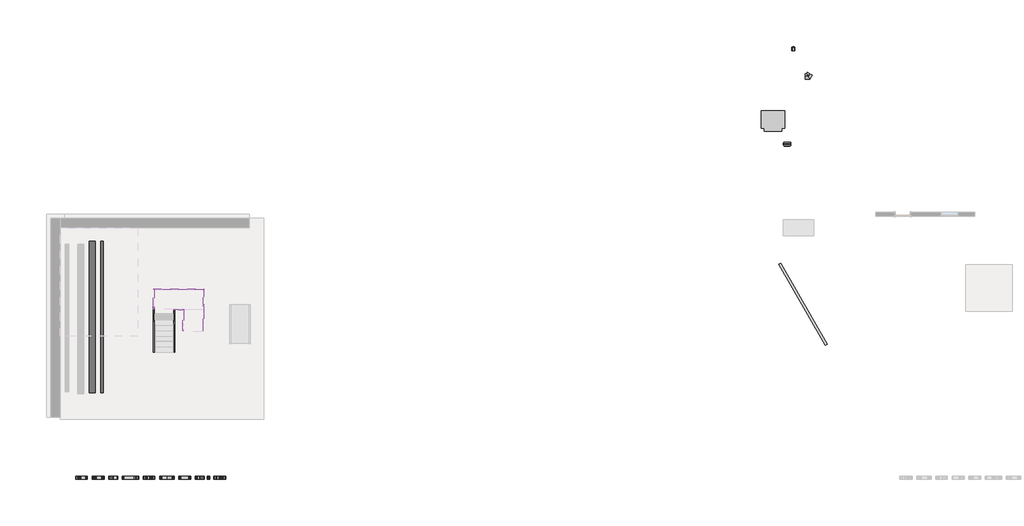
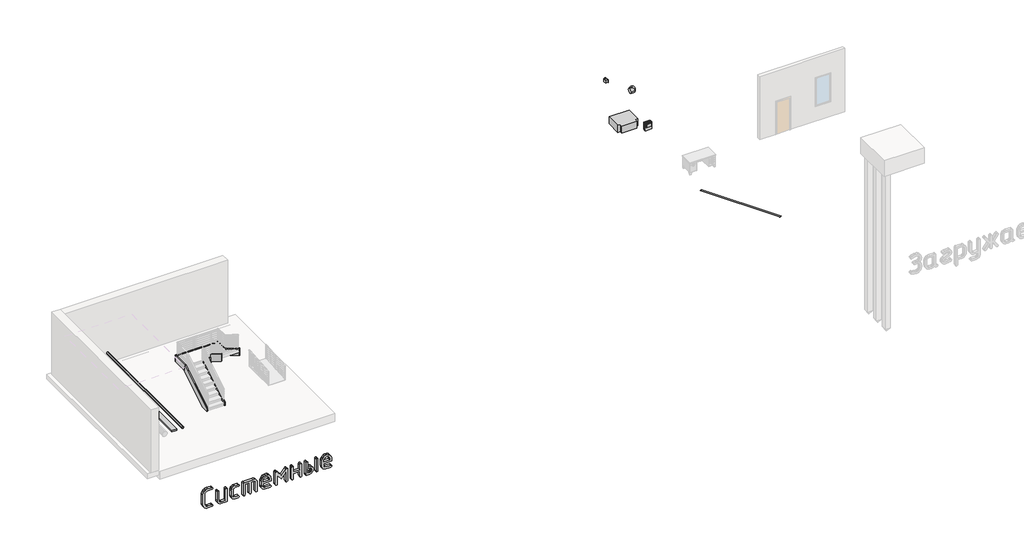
# One storey, part 5 of 6: 8 members, 3 proxies, 2 cable carrier segments, 2 duct fittings, 1 damper.
"""IFC4 building model written with IfcOpenShell, lengths in millimetres."""

import ifcopenshell
import ifcopenshell.guid

model = None  # the IFC model being written
_history = None  # IfcOwnerHistory: only IFC2X3 demands one
_inside = {}  # id of a spatial element -> (the spatial element, [elements in it])
_under = {}  # id of a project, library or spatial element -> (it, [spatial elements below it])
_declared = {}  # id of a project -> (the project, [libraries it declares])
_typed = {}  # id of a type object -> (the type object, [elements of that type])
_made_of = {}  # id of a material, layer set ... -> (it, [elements and type objects made of it])


def new_model(schema):
    """Start an empty IFC model of exactly this schema.

    Asked for "IFC4X3", IfcOpenShell would pick the latest addendum, in which some entities
    have other attributes; the version numbers below select the first issue.
    IFC2X3 requires an IfcOwnerHistory on every rooted entity: one is made here for all.
    """
    global model, _history
    if schema == "IFC4X3":
        model = ifcopenshell.file(schema_version=(4, 3, 0, 0))
    else:
        model = ifcopenshell.file(schema=schema)
    _inside.clear()
    _under.clear()
    _declared.clear()
    _typed.clear()
    _made_of.clear()
    _history = None
    if model.schema == "IFC2X3":
        org = make("IfcOrganization", Name="unknown")
        user = make(
            "IfcPersonAndOrganization",
            ThePerson=make("IfcPerson", FamilyName="unknown"),
            TheOrganization=org,
        )
        app = make(
            "IfcApplication",
            ApplicationDeveloper=org,
            Version="unknown",
            ApplicationFullName="unknown",
            ApplicationIdentifier="unknown",
        )
        _history = make(
            "IfcOwnerHistory",
            OwningUser=user,
            OwningApplication=app,
            ChangeAction="ADDED",
            CreationDate=0,
        )
    return model


def make(cls, **values):
    """One entity of the class cls with the attributes given. An attribute that is None is left unset."""
    return model.create_entity(
        cls, **{name: value for name, value in values.items() if value is not None}
    )


def rooted(cls, **values):
    """An entity with a GlobalId (a new one), such as an element, a storey or a relation."""
    return make(cls, GlobalId=ifcopenshell.guid.new(), OwnerHistory=_history, **values)


def si_unit(unit_type, name, prefix=None):
    """IfcSIUnit, for example si_unit("LENGTHUNIT", "METRE", prefix="MILLI")."""
    return make("IfcSIUnit", UnitType=unit_type, Prefix=prefix, Name=name)


def assignment(units):
    """IfcUnitAssignment: the units of a project."""
    return None if units is None else make("IfcUnitAssignment", Units=units)


def point(xyz):
    """IfcCartesianPoint."""
    return None if xyz is None else make("IfcCartesianPoint", Coordinates=xyz)


def direction(xyz):
    """IfcDirection."""
    return None if xyz is None else make("IfcDirection", DirectionRatios=xyz)


def frame(location, z_axis=None, x_axis=None):
    """IfcAxis2Placement3D, a coordinate frame: its origin and axes. An axis left out is left unset."""
    return make(
        "IfcAxis2Placement3D",
        Location=point(location),
        Axis=direction(z_axis),
        RefDirection=direction(x_axis),
    )


def frame_2d(location, x_axis=None):
    """IfcAxis2Placement2D, a coordinate frame in the plane: its origin and x axis."""
    return make(
        "IfcAxis2Placement2D", Location=point(location), RefDirection=direction(x_axis)
    )


def origin():
    """The frame at (0, 0, 0) with its axes left unset."""
    return frame((0.0, 0.0, 0.0))


def origin_with_axes():
    """The frame at (0, 0, 0) with the z axis (0, 0, 1) and the x axis (1, 0, 0) written out."""
    return frame((0.0, 0.0, 0.0), z_axis=(0.0, 0.0, 1.0), x_axis=(1.0, 0.0, 0.0))


def place(relative_to, where):
    """IfcLocalPlacement: puts the frame where relative to a parent placement (None: the world)."""
    return make(
        "IfcLocalPlacement", PlacementRelTo=relative_to, RelativePlacement=where
    )


def context(
    kind, dimensions, precision=None, world=None, true_north=None, identifier=None
):
    """IfcGeometricRepresentationContext, for example the 3D "Model" context."""
    return make(
        "IfcGeometricRepresentationContext",
        ContextIdentifier=identifier,
        ContextType=kind,
        CoordinateSpaceDimension=dimensions,
        Precision=precision,
        WorldCoordinateSystem=world,
        TrueNorth=true_north,
    )


def project(units=None, contexts=None):
    """IfcProject with its units and contexts."""
    return rooted(
        "IfcProject",
        Name="project",
        RepresentationContexts=contexts,
        UnitsInContext=assignment(units),
    )


def spatial(cls, under=None, at=None, **own):
    """A site, building, storey or space (cls), placed at a placement, below another one or the project."""
    s = rooted(cls, ObjectPlacement=at, **own)
    if under is not None:
        _under.setdefault(under.id(), (under, []))[1].append(s)
    return s


def polyline(points):
    """IfcPolyline through the points."""
    return make("IfcPolyline", Points=[point(p) for p in points])


def circle_curve(where, radius):
    """IfcCircle in the frame where."""
    return make("IfcCircle", Position=where, Radius=radius)


def ellipse_curve(where, semi_axis1, semi_axis2):
    """IfcEllipse in the frame where."""
    return make(
        "IfcEllipse", Position=where, SemiAxis1=semi_axis1, SemiAxis2=semi_axis2
    )


def trimmed(basis, trim1, trim2, sense, master):
    """IfcTrimmedCurve: the piece of a basis curve between two trims."""
    return make(
        "IfcTrimmedCurve",
        BasisCurve=basis,
        Trim1=trim1,
        Trim2=trim2,
        SenseAgreement=sense,
        MasterRepresentation=master,
    )


def segment(curve, same_sense, transition):
    """IfcCompositeCurveSegment."""
    return make(
        "IfcCompositeCurveSegment",
        Transition=transition,
        SameSense=same_sense,
        ParentCurve=curve,
    )


def composite_curve(segments, self_intersect=None):
    """IfcCompositeCurve: segments joined end to end."""
    return make("IfcCompositeCurve", Segments=segments, SelfIntersect=self_intersect)


def outline(outer, holes=None, kind="AREA"):
    """IfcArbitraryClosedProfileDef: a profile drawn as a closed curve; with holes, ...WithVoids."""
    if holes is None:
        return make("IfcArbitraryClosedProfileDef", ProfileType=kind, OuterCurve=outer)
    return make(
        "IfcArbitraryProfileDefWithVoids",
        ProfileType=kind,
        OuterCurve=outer,
        InnerCurves=holes,
    )


def extrude(swept, where, along, depth):
    """IfcExtrudedAreaSolid: the profile swept, set in the frame where, extruded along a direction by depth."""
    return make(
        "IfcExtrudedAreaSolid",
        SweptArea=swept,
        Position=where,
        ExtrudedDirection=direction(along),
        Depth=depth,
    )


def faces_of(points, faces, orient=None, outer=None):
    """IfcFace entities. A face is a list of loops; a loop is a list of indices into points, from 0.

    orient and outer hold one flag for each loop. By default every Orientation is true, the
    first loop of a face is its IfcFaceOuterBound and the others are IfcFaceBound.
    """
    made = []
    for i, loops in enumerate(faces):
        bounds = []
        for j, loop in enumerate(loops):
            is_outer = j == 0 if outer is None else outer[i][j]
            bounds.append(
                make(
                    "IfcFaceOuterBound" if is_outer else "IfcFaceBound",
                    Bound=make("IfcPolyLoop", Polygon=[points[k] for k in loop]),
                    Orientation=True if orient is None else orient[i][j],
                )
            )
        made.append(make("IfcFace", Bounds=bounds))
    return made


def faceted_brep(points, faces, orient=None, outer=None, voids=None):
    """IfcFacetedBrep: a solid bounded by flat faces; with voids (closed shells), ...WithVoids."""
    shared = [point(p) for p in points]
    hull = make("IfcClosedShell", CfsFaces=faces_of(shared, faces, orient, outer))
    if voids is None:
        return make("IfcFacetedBrep", Outer=hull)
    return make(
        "IfcFacetedBrepWithVoids",
        Outer=hull,
        Voids=[
            make(cls, CfsFaces=faces_of(shared, fs, o, b)) for cls, fs, o, b in voids
        ],
    )


def shape(context_of_items, identifier, shape_type, items):
    """IfcShapeRepresentation: the items that make up one representation, for example the "Body"."""
    return make(
        "IfcShapeRepresentation",
        ContextOfItems=context_of_items,
        RepresentationIdentifier=identifier,
        RepresentationType=shape_type,
        Items=items,
    )


def source(mapping_origin, context_of_items, identifier, shape_type, items):
    """IfcRepresentationMap: a shape defined once, which mapped items show again and again."""
    return make(
        "IfcRepresentationMap",
        MappingOrigin=mapping_origin,
        MappedRepresentation=shape(context_of_items, identifier, shape_type, items),
    )


def transform(
    local_origin,
    x_axis=None,
    y_axis=None,
    z_axis=None,
    scale=None,
    scale2=None,
    scale3=None,
    uniform=True,
):
    """IfcCartesianTransformationOperator3D, or its non-uniform kind. x_axis, y_axis, z_axis: its Axis1, 2, 3."""
    if uniform:
        return make(
            "IfcCartesianTransformationOperator3D",
            Axis1=direction(x_axis),
            Axis2=direction(y_axis),
            LocalOrigin=point(local_origin),
            Scale=scale,
            Axis3=direction(z_axis),
        )
    return make(
        "IfcCartesianTransformationOperator3DnonUniform",
        Axis1=direction(x_axis),
        Axis2=direction(y_axis),
        LocalOrigin=point(local_origin),
        Scale=scale,
        Axis3=direction(z_axis),
        Scale2=scale2,
        Scale3=scale3,
    )


def mapped(mapping_source, mapping_target):
    """IfcMappedItem: shows the shape of a source again, moved by a transform."""
    return make(
        "IfcMappedItem", MappingSource=mapping_source, MappingTarget=mapping_target
    )


def made_of(thing, what):
    """Note that an element or type object is made of a material, layer set ...; save() writes the relation."""
    if what is not None:
        _made_of.setdefault(what.id(), (what, []))[1].append(thing)
    return thing


def element(
    cls,
    number,
    at=None,
    inside=None,
    cuts=None,
    type_object=None,
    material=None,
    context=None,
    identifier="Body",
    shape_type=None,
    held_by="IfcProductDefinitionShape",
    body=None,
    shapes=None,
    **own,
):
    """One element of the class cls, such as IfcWall. Its Tag is "e" and its number.

    at: its placement. inside: the storey or other place that contains it. cuts: it is an
    opening in that element (IfcRelVoidsElement). A single representation is given by context,
    identifier, shape_type and body (its items); several are given by shapes. held_by: the class
    of the entity that holds the representations. save() writes the other relations.
    """
    e = rooted(cls, Tag="e%d" % number, ObjectPlacement=at, **own)
    if body is not None:
        shapes = [shape(context, identifier, shape_type, body)]
    if shapes is not None:
        e.Representation = make(held_by, Representations=shapes)
    if inside is not None:
        _inside.setdefault(inside.id(), (inside, []))[1].append(e)
    if cuts is not None:
        rooted(
            "IfcRelVoidsElement", RelatingBuildingElement=cuts, RelatedOpeningElement=e
        )
    if type_object is not None:
        _typed.setdefault(type_object.id(), (type_object, []))[1].append(e)
    return made_of(e, material)


def aggregate(whole, parts):
    """IfcRelAggregates: a whole, such as a stair, and the parts it consists of."""
    return rooted("IfcRelAggregates", RelatingObject=whole, RelatedObjects=parts)


def save(model, path):
    """Write the relations noted so far, then the file.

    IfcRelAggregates (storeys below a building ...), IfcRelContainedInSpatialStructure (elements
    in a storey), IfcRelDefinesByType, IfcRelAssociatesMaterial and IfcRelDeclares: one each for
    every whole, place, type object, material and project.
    """
    for whole, parts in _under.values():
        aggregate(whole, parts)
    for where, things in _inside.values():
        rooted(
            "IfcRelContainedInSpatialStructure",
            RelatedElements=things,
            RelatingStructure=where,
        )
    for kind, things in _typed.values():
        rooted("IfcRelDefinesByType", RelatedObjects=things, RelatingType=kind)
    for what, things in _made_of.values():
        rooted("IfcRelAssociatesMaterial", RelatedObjects=things, RelatingMaterial=what)
    for by, libraries in _declared.values():
        rooted("IfcRelDeclares", RelatingContext=by, RelatedDefinitions=libraries)
    model.write(path)


def plane_surface(at):
    """IfcPlane: the flat surface through the origin of the frame at, square to its z axis."""
    return make("IfcPlane", Position=at)


def cylinder_surface(at, radius):
    """IfcCylindricalSurface: all points at the distance radius from the z axis of the frame at."""
    return make("IfcCylindricalSurface", Position=at, Radius=radius)


def advanced_brep(points, edges, surfaces, faces):
    """IfcAdvancedBrep: a solid bounded by faces that lie on surfaces and meet in shared edges.

    An edge is (start, end): straight between two places in points (the first is 0);
    or (start, end, curve); or (start, end, curve, False) where it runs against its curve.
    A face is (place in surfaces, loops), or (place, loops, False) where it looks against
    its surface's normal. A loop lists edges by number (the first is 1), with a minus sign
    where the edge is run from its end to its start. The first loop is the outer one.
    """
    corners = [point(p) for p in points]
    vertices = [make("IfcVertexPoint", VertexGeometry=c) for c in corners]
    made = []
    for start, end, *more in edges:
        made.append(
            make(
                "IfcEdgeCurve",
                EdgeStart=vertices[start],
                EdgeEnd=vertices[end],
                EdgeGeometry=more[0] if more else make("IfcPolyline", Points=[corners[start], corners[end]]),
                SameSense=more[1] if len(more) > 1 else True,
            )
        )
    hull = []
    for where, loops, *sense in faces:
        bounds = []
        for j, loop in enumerate(loops):
            ring = [make("IfcOrientedEdge", EdgeElement=made[abs(k) - 1], Orientation=k > 0) for k in loop]
            bounds.append(
                make(
                    "IfcFaceOuterBound" if j == 0 else "IfcFaceBound",
                    Bound=make("IfcEdgeLoop", EdgeList=ring),
                    Orientation=True,
                )
            )
        hull.append(make("IfcAdvancedFace", Bounds=bounds, FaceSurface=surfaces[where], SameSense=sense[0] if sense else True))
    return make("IfcAdvancedBrep", Outer=make("IfcClosedShell", CfsFaces=hull))


def mechanical_equipment_a20b9884(model_context):
    return source(origin(), model_context, "Body", "SolidModel", [
        extrude(outline(polyline([(329.2, -38.1), (50.8, -38.1), (50.8, 0.0), (329.2, 0.0), (329.2, -38.1)])), frame((0.0, 0.0, 209.2), z_axis=(0.0, 0.0, 1.0), x_axis=(1.0, 0.0, 0.0)), (0.0, 0.0, 1.0), 200.0),
        faceted_brep([(0.0, 102.5, 460.0), (0.0, 77.5, 460.0), (380.0, 77.5, 460.0), (380.0, 102.5, 460.0), (380.0, 102.5, 0.0), (380.0, 77.5, 0.0), (0.0, 77.5, 0.0), (0.0, 102.5, 0.0), (373.65, 180.0, 453.65), (373.65, 180.0, 6.35), (6.35, 180.0, 6.35), (6.35, 180.0, 453.65), (6.35, 0.0, 453.65), (6.35, 0.0, 6.35), (373.65, 0.0, 6.35), (373.65, 0.0, 453.65)], [[[0, 1, 2, 3]], [[4, 5, 6, 7]], [[8, 9, 10, 11]], [[1, 0, 7, 6]], [[12, 13, 14, 15]], [[3, 2, 5, 4]], [[7, 0, 11, 10]], [[1, 6, 13, 12]], [[5, 2, 15, 14]], [[3, 4, 9, 8]], [[0, 3, 8, 11]], [[2, 1, 12, 15]], [[4, 7, 10, 9]], [[6, 5, 14, 13]]]),
    ])


def parking_5b8ad055(model_context):
    return source(origin(), model_context, "Body", "SweptSolid", [
        extrude(outline(polyline([(-43.9940905, -25.4), (43.9940905, 25.4), (2444.0391595, -4131.6), (2356.0509785, -4182.4), (-43.9940905, -25.4)])), origin_with_axes(), (0.0, 0.0, 1.0), 3.175),
    ])


def damper_459daeea(model_context):
    return source(origin(), model_context, "Body", "AdvancedBrep", [
        advanced_brep(
        [(67.5, -75.0, 75.0), (-67.5, -75.0, 75.0), (-67.5, -75.0, -75.0), (67.5, -75.0, -75.0), (-67.5, 75.0, -75.0), (67.5, 75.0, -75.0), (-67.5, 75.0, 75.0), (67.5, 75.0, 75.0), (-41.25, 75.0, 37.5), (-26.25, 75.0, 37.5), (-41.25, 120.0, 37.5), (-39.3247061, 120.0, 42.5172355), (-28.1752939, 120.0, 32.4827645), (-26.25, 114.9827645, 37.5), (5.5747061, 120.0, 69.9827645), (-5.5747061, 120.0, 80.0172355), (11.1494122, 120.0, 64.965529), (-11.1494122, 120.0, 85.034471), (28.0244122, 120.0, 83.715529), (5.7255878, 120.0, 103.784471), (22.4497061, 120.0, 88.7327645), (11.3002939, 120.0, 98.7672355), (39.3247061, 120.0, 107.4827645), (28.1752939, 120.0, 117.5172355), (-67.5, -90.0, 90.0), (-67.5, -90.0, -90.0), (-67.5, 90.0, -90.0), (-67.5, 90.0, 90.0), (-75.0, -90.0, 90.0), (-75.0, 90.0, 90.0), (-75.0, 90.0, -90.0), (-75.0, -90.0, -90.0), (75.0, -90.0, 90.0), (75.0, -90.0, -90.0), (75.0, 90.0, -90.0), (75.0, 90.0, 90.0), (67.5, -90.0, 90.0), (67.5, 90.0, 90.0), (67.5, 90.0, -90.0), (67.5, -90.0, -90.0)],
        [
            (0, 1),
            (1, 2),
            (2, 3),
            (3, 0),
            (2, 4),
            (4, 5),
            (5, 3),
            (4, 6),
            (6, 7),
            (7, 5),
            (8, 9, circle_curve(frame((-33.75, 75.0, 37.5), z_axis=(0.0, -1.0, 0.0), x_axis=(1.0, 0.0, 0.0)), 7.5)),
            (9, 8, circle_curve(frame((-33.75, 75.0, 37.5), z_axis=(0.0, -1.0, 0.0), x_axis=(1.0, 0.0, 0.0)), 7.5)),
            (0, 7),
            (6, 1),
            (10, 11, circle_curve(frame((-33.75, 120.0, 37.5), z_axis=(0.0, 1.0, 0.0), x_axis=(1.0, 0.0, 0.0)), 7.5)),
            (11, 12),
            (12, 10, circle_curve(frame((-33.75, 120.0, 37.5), z_axis=(0.0, 1.0, 0.0), x_axis=(1.0, 0.0, 0.0)), 7.5)),
            (8, 10),
            (12, 13, ellipse_curve(frame((-33.75, 120.0, 37.5), z_axis=(-0.47302949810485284, -0.7071067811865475, -0.5255883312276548), x_axis=(0.4730294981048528, -0.7071067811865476, 0.5255883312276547)), 10.6066017, 7.5)),
            (13, 9),
            (13, 11, ellipse_curve(frame((-33.75, 120.0, 37.5), z_axis=(-0.47302949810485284, -0.7071067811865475, -0.5255883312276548), x_axis=(0.4730294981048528, -0.7071067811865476, 0.5255883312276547)), 10.6066017, 7.5)),
            (11, 12, circle_curve(frame((-33.75, 120.0, 37.5), z_axis=(-0.6689647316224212, 0.0, -0.743294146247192), x_axis=(-0.743294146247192, 0.0, 0.6689647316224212)), 7.5)),
            (12, 14),
            (14, 15, circle_curve(frame((0.0, 120.0, 75.0), z_axis=(-0.6689647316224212, 0.0, -0.743294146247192), x_axis=(-0.743294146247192, 0.0, 0.6689647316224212)), 7.5)),
            (15, 11),
            (15, 14, circle_curve(frame((0.0, 120.0, 75.0), z_axis=(-0.6689647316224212, 0.0, -0.743294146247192), x_axis=(-0.743294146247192, 0.0, 0.6689647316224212)), 7.5)),
            (16, 17, circle_curve(frame((0.0, 120.0, 75.0), z_axis=(-0.6689647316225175, 0.0, -0.7432941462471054), x_axis=(-0.7432941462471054, 0.0, 0.6689647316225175)), 15.0)),
            (17, 16, circle_curve(frame((0.0, 120.0, 75.0), z_axis=(-0.6689647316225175, 0.0, -0.7432941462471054), x_axis=(-0.7432941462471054, 0.0, 0.6689647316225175)), 15.0)),
            (18, 19, circle_curve(frame((16.875, 120.0, 93.75), z_axis=(0.6689647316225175, 0.0, 0.7432941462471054), x_axis=(-0.7432941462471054, 0.0, 0.6689647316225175)), 15.0)),
            (19, 18, circle_curve(frame((16.875, 120.0, 93.75), z_axis=(0.6689647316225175, 0.0, 0.7432941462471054), x_axis=(-0.7432941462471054, 0.0, 0.6689647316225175)), 15.0)),
            (20, 21, circle_curve(frame((16.875, 120.0, 93.75), z_axis=(-0.6689647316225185, 0.0, -0.7432941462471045), x_axis=(-0.7432941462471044, 0.0, 0.6689647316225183)), 7.5)),
            (21, 20, circle_curve(frame((16.875, 120.0, 93.75), z_axis=(-0.6689647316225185, 0.0, -0.7432941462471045), x_axis=(-0.7432941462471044, 0.0, 0.6689647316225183)), 7.5)),
            (16, 18),
            (19, 17),
            (22, 23, circle_curve(frame((33.75, 120.0, 112.5), z_axis=(0.6689647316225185, 0.0, 0.7432941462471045), x_axis=(-0.7432941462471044, 0.0, 0.6689647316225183)), 7.5)),
            (23, 22, circle_curve(frame((33.75, 120.0, 112.5), z_axis=(0.6689647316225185, 0.0, 0.7432941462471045), x_axis=(-0.7432941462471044, 0.0, 0.6689647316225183)), 7.5)),
            (23, 21),
            (20, 22),
            (24, 25),
            (25, 26),
            (26, 27),
            (27, 24),
            (28, 29),
            (29, 30),
            (30, 31),
            (31, 28),
            (24, 28),
            (31, 25),
            (30, 26),
            (29, 27),
            (32, 33),
            (33, 34),
            (34, 35),
            (35, 32),
            (36, 37),
            (37, 38),
            (38, 39),
            (39, 36),
            (32, 36),
            (39, 33),
            (38, 34),
            (37, 35),
        ],
        [
            plane_surface(frame((67.5, -75.0, 75.0), z_axis=(0.0, -1.0, 0.0), x_axis=(-1.0, 0.0, 0.0))),
            plane_surface(frame((67.5, -75.0, -75.0), z_axis=(0.0, 0.0, -1.0), x_axis=(-1.0, 0.0, 0.0))),
            plane_surface(frame((67.5, 75.0, -75.0), z_axis=(0.0, 1.0, 0.0), x_axis=(-1.0, 0.0, 0.0))),
            plane_surface(frame((67.5, 75.0, 75.0), z_axis=(0.0, 0.0, 1.0), x_axis=(-1.0, 0.0, 0.0))),
            plane_surface(frame((-26.25, 120.0, 37.5), z_axis=(0.0, 1.0, 0.0), x_axis=(0.0, 0.0, -1.0))),
            cylinder_surface(frame((-33.75, 120.0, 37.5), z_axis=(0.0, -1.0, 0.0), x_axis=(1.0, 0.0, 0.0)), 7.5),
            plane_surface(frame((-33.75, 0.0, 37.5), z_axis=(-0.6689647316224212, 0.0, -0.743294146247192), x_axis=(0.0, -1.0, 0.0))),
            cylinder_surface(frame((-33.75, 120.0, 37.5), z_axis=(-0.6689647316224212, 0.0, -0.743294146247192), x_axis=(-0.743294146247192, 0.0, 0.6689647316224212)), 7.5),
            plane_surface(frame((0.0, 0.0, 75.0), z_axis=(-0.6689647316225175, 0.0, -0.7432941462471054), x_axis=(0.0, -1.0, 0.0))),
            plane_surface(frame((16.875, 0.0, 93.75), z_axis=(0.6689647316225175, 0.0, 0.7432941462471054), x_axis=(0.0, -1.0, 0.0))),
            cylinder_surface(frame((0.0, 120.0, 75.0), z_axis=(-0.6689647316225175, 0.0, -0.7432941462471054), x_axis=(-0.7432941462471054, 0.0, 0.6689647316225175)), 15.0),
            plane_surface(frame((33.75, 0.0, 112.5), z_axis=(0.6689647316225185, 0.0, 0.7432941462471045), x_axis=(0.0, -1.0, 0.0))),
            cylinder_surface(frame((16.875, 120.0, 93.75), z_axis=(-0.6689647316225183, 0.0, -0.7432941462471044), x_axis=(-0.7432941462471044, 0.0, 0.6689647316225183)), 7.5),
            plane_surface(frame((-67.5, -90.0, 90.0), z_axis=(1.0, 0.0, 0.0), x_axis=(0.0, 0.0, -1.0))),
            plane_surface(frame((-75.0, -90.0, 90.0), z_axis=(-1.0, 0.0, 0.0), x_axis=(0.0, 0.0, 1.0))),
            plane_surface(frame((-67.5, -90.0, 90.0), z_axis=(0.0, -1.0, 0.0), x_axis=(-1.0, 0.0, 0.0))),
            plane_surface(frame((-67.5, -90.0, -90.0), z_axis=(0.0, 0.0, -1.0), x_axis=(-1.0, 0.0, 0.0))),
            plane_surface(frame((-67.5, 90.0, -90.0), z_axis=(0.0, 1.0, 0.0), x_axis=(-1.0, 0.0, 0.0))),
            plane_surface(frame((-67.5, 90.0, 90.0), z_axis=(0.0, 0.0, 1.0), x_axis=(-1.0, 0.0, 0.0))),
            plane_surface(frame((75.0, -90.0, 90.0), z_axis=(1.0, 0.0, 0.0), x_axis=(0.0, 0.0, -1.0))),
            plane_surface(frame((67.5, -90.0, 90.0), z_axis=(-1.0, 0.0, 0.0), x_axis=(0.0, 0.0, 1.0))),
            plane_surface(frame((75.0, -90.0, 90.0), z_axis=(0.0, -1.0, 0.0), x_axis=(-1.0, 0.0, 0.0))),
            plane_surface(frame((75.0, -90.0, -90.0), z_axis=(0.0, 0.0, -1.0), x_axis=(-1.0, 0.0, 0.0))),
            plane_surface(frame((75.0, 90.0, -90.0), z_axis=(0.0, 1.0, 0.0), x_axis=(-1.0, 0.0, 0.0))),
            plane_surface(frame((75.0, 90.0, 90.0), z_axis=(0.0, 0.0, 1.0), x_axis=(-1.0, 0.0, 0.0))),
        ],
        [
            (0, [[1, 2, 3, 4]]),
            (1, [[-3, 5, 6, 7]]),
            (2, [[-6, 8, 9, 10], [11, 12]]),
            (3, [[-1, 13, -9, 14]]),
            (4, [[15, 16, 17]]),
            (5, [[18, -17, 19, 20, -11]]),
            (5, [[-18, -12, -20, 21, -15]]),
            (6, [[22, -16]]),
            (7, [[23, 24, 25, -21, -19]]),
            (7, [[-22, -25, 26, -23]]),
            (8, [[27, 28], [-24, -26]]),
            (9, [[29, 30], [31, 32]]),
            (10, [[-27, 33, -30, 34]]),
            (10, [[-28, -34, -29, -33]]),
            (11, [[35, 36]]),
            (12, [[-36, 37, -31, 38]]),
            (12, [[-35, -38, -32, -37]]),
            (13, [[39, 40, 41, 42], [-2, -14, -8, -5]]),
            (14, [[43, 44, 45, 46]]),
            (15, [[-39, 47, -46, 48]]),
            (16, [[-40, -48, -45, 49]]),
            (17, [[-41, -49, -44, 50]]),
            (18, [[-42, -50, -43, -47]]),
            (19, [[51, 52, 53, 54]]),
            (20, [[55, 56, 57, 58], [-4, -7, -10, -13]]),
            (21, [[-51, 59, -58, 60]]),
            (22, [[-52, -60, -57, 61]]),
            (23, [[-53, -61, -56, 62]]),
            (24, [[-54, -62, -55, -59]]),
        ],
    ),
    ])


def duct_fitting_f00111ba(model_context):
    return source(origin(), model_context, "Body", "SweptSolid", [
        extrude(outline(polyline([(-600.0, -450.0), (-600.0, 450.0), (600.0, 450.0), (600.0, -450.0), (450.0, -450.0), (450.0, -600.0), (-450.0, -600.0), (-450.0, -450.0), (-600.0, -450.0)])), frame((0.0, 0.0, -225.0), z_axis=(0.0, 0.0, 1.0), x_axis=(1.0, 0.0, 0.0)), (0.0, 0.0, 1.0), 450.0),
    ])


def duct_fitting_fdeae395(model_context):
    return source(origin(), model_context, "Body", "AdvancedBrep", [
        advanced_brep(
        [(-154.9038106, 0.0, 150.0), (-154.9038106, 150.0, 0.0), (-154.9038106, 0.0, -150.0), (-154.9038106, -150.0, 0.0), (0.0, 0.0, 150.0), (-86.6025404, 150.0, 0.0), (0.0, 0.0, -150.0), (86.6025404, -150.0, 0.0), (77.4519053, 134.1506351, 150.0), (207.3557159, 59.1506351, 0.0), (77.4519053, 134.1506351, -150.0), (-52.4519053, 209.1506351, 0.0)],
        [
            (0, 1, circle_curve(frame((-154.9038106, 0.0, 0.0), z_axis=(-1.0, 0.0, 0.0), x_axis=(0.0, 1.0, 0.0)), 150.0)),
            (1, 2, circle_curve(frame((-154.9038106, 0.0, 0.0), z_axis=(-1.0, 0.0, 0.0), x_axis=(0.0, 1.0, 0.0)), 150.0)),
            (2, 3, circle_curve(frame((-154.9038106, 0.0, 0.0), z_axis=(-1.0, 0.0, 0.0), x_axis=(0.0, 1.0, 0.0)), 150.0)),
            (3, 0, circle_curve(frame((-154.9038106, 0.0, 0.0), z_axis=(-1.0, 0.0, 0.0), x_axis=(0.0, 1.0, 0.0)), 150.0)),
            (0, 4),
            (4, 5, ellipse_curve(frame((0.0, 0.0, 0.0), z_axis=(-0.8660254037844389, -0.49999999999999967, 0.0), x_axis=(-0.49999999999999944, 0.8660254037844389, 0.0)), 173.2050808, 150.0)),
            (5, 1),
            (5, 6, ellipse_curve(frame((0.0, 0.0, 0.0), z_axis=(-0.8660254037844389, -0.49999999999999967, 0.0), x_axis=(-0.49999999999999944, 0.8660254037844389, 0.0)), 173.2050808, 150.0)),
            (6, 2),
            (6, 7, ellipse_curve(frame((0.0, 0.0, 0.0), z_axis=(-0.8660254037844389, -0.49999999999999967, 0.0), x_axis=(-0.49999999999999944, 0.8660254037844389, 0.0)), 173.2050808, 150.0)),
            (7, 3),
            (7, 4, ellipse_curve(frame((0.0, 0.0, 0.0), z_axis=(-0.8660254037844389, -0.49999999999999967, 0.0), x_axis=(-0.49999999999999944, 0.8660254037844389, 0.0)), 173.2050808, 150.0)),
            (8, 9, circle_curve(frame((77.4519053, 134.1506351, 0.0), z_axis=(0.500000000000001, 0.8660254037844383, 0.0), x_axis=(-0.866025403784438, 0.5000000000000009, 0.0)), 150.0)),
            (9, 10, circle_curve(frame((77.4519053, 134.1506351, 0.0), z_axis=(0.500000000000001, 0.8660254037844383, 0.0), x_axis=(-0.866025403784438, 0.5000000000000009, 0.0)), 150.0)),
            (10, 11, circle_curve(frame((77.4519053, 134.1506351, 0.0), z_axis=(0.500000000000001, 0.8660254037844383, 0.0), x_axis=(-0.866025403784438, 0.5000000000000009, 0.0)), 150.0)),
            (11, 8, circle_curve(frame((77.4519053, 134.1506351, 0.0), z_axis=(0.500000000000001, 0.8660254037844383, 0.0), x_axis=(-0.866025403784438, 0.5000000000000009, 0.0)), 150.0)),
            (4, 8),
            (11, 5),
            (10, 6),
            (9, 7),
        ],
        [
            plane_surface(frame((-154.9038106, 0.0, 0.0), z_axis=(-1.0, 0.0, 0.0), x_axis=(0.0, 0.0, 1.0))),
            cylinder_surface(frame((-154.9038106, 0.0, 0.0), z_axis=(-1.0, 0.0, 0.0), x_axis=(0.0, 1.0, 0.0)), 150.0),
            plane_surface(frame((77.4519053, 134.1506351, 0.0), z_axis=(0.5000000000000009, 0.8660254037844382, 0.0), x_axis=(0.0, 0.0, 1.0))),
            cylinder_surface(frame((0.0, 0.0, 0.0), z_axis=(-0.5000000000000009, -0.866025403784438, 0.0), x_axis=(-0.866025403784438, 0.5000000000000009, 0.0)), 150.0),
        ],
        [
            (0, [[1, 2, 3, 4]]),
            (1, [[-1, 5, 6, 7]]),
            (1, [[-2, -7, 8, 9]]),
            (1, [[-3, -9, 10, 11]]),
            (1, [[-4, -11, 12, -5]]),
            (2, [[13, 14, 15, 16]]),
            (3, [[-6, 17, -16, 18]]),
            (3, [[-8, -18, -15, 19]]),
            (3, [[-10, -19, -14, 20]]),
            (3, [[-12, -20, -13, -17]]),
        ],
    ),
    ])


model = new_model("IFC4")

# Units and contexts
model_context = context("Model", 3, world=origin())
ifc_project = project(units=[si_unit("LENGTHUNIT", "METRE", prefix="MILLI")], contexts=[model_context])

# Site, building, storey
site = spatial("IfcSite", under=ifc_project)
building = spatial("IfcBuilding", under=site)
storey = spatial("IfcBuildingStorey", under=building, Name="Уровень 1", Elevation=0.0)

# Proxies
placement = place(None, origin())
element("IfcBuildingElementProxy", 1, Name="600 мм Arial", ObjectType="600 мм Arial", at=placement, inside=storey, context=model_context, shape_type="SweptSolid", body=[
    extrude(outline(polyline([(368.4887498, -11532.2012862), (368.4887498, -11772.6391287), (363.0191483, -11832.3779592), (346.6103438, -11887.2424426), (319.2623362, -11937.2325789), (280.9751256, -11982.348368), (234.9383769, -12019.6921566), (184.341755, -12046.3662913), (129.18526, -12062.3707721), (69.4688919, -12067.705599), (-528.5708239, -12067.705599), (-588.287192, -12062.3707721), (-643.443687, -12046.3662913), (-694.0403088, -12019.6921566), (-740.0770575, -11982.348368), (-778.3642682, -11937.2325789), (-805.7122757, -11887.2424426), (-822.1210803, -11832.3779592), (-827.5906818, -11772.6391287), (-827.5906818, -11532.2012862), (-823.9966931, -11505.9427064), (-813.2147271, -11487.186578), (-795.2447837, -11475.932901), (-770.086863, -11472.1816753), (-744.9289422, -11475.932901), (-726.9589989, -11487.186578), (-716.1770328, -11505.9427064), (-712.5830442, -11532.2012862), (-712.5830442, -11772.6391287), (-709.2698358, -11808.4891657), (-699.3302109, -11841.6437113), (-682.7641694, -11872.1027653), (-659.5717112, -11899.8663278), (-631.6846053, -11922.9801675), (-601.0346206, -11939.490053), (-567.6217571, -11949.3959843), (-531.4460148, -11952.6979614), (72.3440829, -11952.6979614), (96.5361192, -11951.1480538), (119.8745831, -11946.4983309), (142.3594748, -11938.7487928), (163.9907941, -11927.8994395), (203.1428083, -11898.7881312), (218.5239567, -11881.8065347), (231.1085327, -11863.2076433), (240.8965362, -11842.991457), (247.8879673, -11821.1579758), (253.4811122, -11772.6391287), (253.4811122, -11532.2012862), (257.0751009, -11505.9427064), (267.8570669, -11487.186578), (285.8270103, -11475.932901), (310.984931, -11472.1816753), (336.1428518, -11475.932901), (354.1127951, -11487.186578), (364.8947612, -11505.9427064), (368.4887498, -11532.2012862)])), frame((0.0, 248.4758454, 0.0), z_axis=(0.0, 1.0, 0.0), x_axis=(0.0, 0.0, 1.0)), (0.0, 0.0, 1.0), 150.0),
    extrude(outline(polyline([(-37.2725718, -10595.607837), (-10.699518, -10599.2018257), (8.2812347, -10609.9837917), (19.6696863, -10627.9537351), (23.4658369, -10653.1116558), (19.6247615, -10678.2695766), (8.1015353, -10696.2395199), (-11.1038417, -10707.021486), (-37.9913695, -10710.6154747), (-712.5830442, -10710.6154747), (-712.5830442, -10971.1796537), (-710.3143388, -10997.0114473), (-703.5082227, -11020.9563969), (-692.164696, -11043.0145024), (-676.2837585, -11063.1857639), (-657.2805434, -11080.0101233), (-636.5701836, -11092.027523), (-614.1526793, -11099.2379628), (-590.0280303, -11101.6414427), (-37.9913695, -11101.6414427), (-11.1038417, -11105.2354314), (8.1015353, -11116.0173974), (19.6247615, -11133.9873408), (23.4658369, -11159.1452615), (19.6696863, -11184.3031823), (8.2812347, -11202.2731257), (-10.699518, -11213.0550917), (-37.2725718, -11216.6490804), (-584.2776484, -11216.6490804), (-633.4928308, -11212.1453633), (-678.7097009, -11198.6342121), (-719.9282585, -11176.1156268), (-757.1485037, -11144.5896074), (-787.9669567, -11106.5494835), (-809.9801373, -11064.4885848), (-823.1880457, -11018.4069112), (-827.5906818, -10968.3044628), (-827.5906818, -10657.7838411), (-823.7945313, -10630.5818393), (-812.4060797, -10611.151838), (-793.425327, -10599.4938373), (-766.8522732, -10595.607837), (-37.2725718, -10595.607837)])), frame((0.0, 248.4758454, 0.0), z_axis=(0.0, 1.0, 0.0), x_axis=(0.0, 0.0, 1.0)), (0.0, 0.0, 1.0), 150.0),
    extrude(outline(polyline([(-234.2231513, -10250.584924), (-210.188352, -10248.3948372), (-188.0403968, -10241.8245766), (-167.7792856, -10230.8741424), (-149.4050185, -10215.5435344), (-134.153029, -10197.0906488), (-123.2587509, -10176.7733816), (-116.722184, -10154.5917327), (-114.5433283, -10130.5457022), (-114.5433283, -9950.1274706), (-110.9493396, -9923.8688909), (-100.1673736, -9905.1127625), (-82.1974302, -9893.8590854), (-57.0395095, -9890.1078597), (-31.8815888, -9893.8590854), (-13.9116454, -9905.1127625), (-3.1296793, -9923.8688909), (0.4643093, -9950.1274706), (0.4643093, -10130.5457022), (-3.8260146, -10178.9185436), (-16.6969866, -10223.0459858), (-38.1486065, -10262.9280289), (-68.1808744, -10298.5646729), (-104.4127727, -10327.8893742), (-144.4632841, -10348.8355895), (-188.3324083, -10361.4033186), (-236.0201456, -10365.5925617), (-591.1062269, -10365.5925617), (-638.7939641, -10361.4033186), (-682.6630884, -10348.8355895), (-722.7135997, -10327.8893742), (-758.9454981, -10298.5646729), (-788.977766, -10262.9280289), (-810.4293859, -10223.0459858), (-823.3003578, -10178.9185436), (-827.5906818, -10130.5457022), (-827.5906818, -9950.1274706), (-823.9966931, -9923.8688909), (-813.2147271, -9905.1127625), (-795.2447837, -9893.8590854), (-770.086863, -9890.1078597), (-744.9289422, -9893.8590854), (-726.9589989, -9905.1127625), (-716.1770328, -9923.8688909), (-712.5830442, -9950.1274706), (-712.5830442, -10130.5457022), (-710.3704949, -10154.1537153), (-703.732847, -10176.0995087), (-692.6701006, -10196.3830823), (-677.1822557, -10215.0044361), (-658.6395204, -10230.5708996), (-638.4121028, -10241.689802), (-616.5000031, -10248.3611435), (-592.9032212, -10250.584924), (-234.2231513, -10250.584924)])), frame((0.0, 248.4758454, 0.0), z_axis=(0.0, 1.0, 0.0), x_axis=(0.0, 0.0, 1.0)), (0.0, 0.0, 1.0), 150.0),
    extrude(outline(polyline([(0.4643093, -9591.8067995), (-3.2419915, -9618.3798533), (-14.360894, -9637.360606), (-32.8923981, -9648.7490576), (-58.8365038, -9652.5452082), (-768.2898686, -9652.5452082), (-794.2339744, -9648.9512195), (-812.7654785, -9638.1692535), (-823.884381, -9620.1993101), (-827.5906818, -9595.0413894), (-823.884381, -9569.8834686), (-812.7654785, -9551.9135252), (-794.2339744, -9541.1315592), (-768.2898686, -9537.5375705), (-114.5433283, -9537.5375705), (-114.5433283, -9284.5207677), (-768.2898686, -9284.5207677), (-794.2339744, -9280.926779), (-812.7654785, -9270.144813), (-823.884381, -9252.1748696), (-827.5906818, -9227.0169488), (-823.884381, -9201.8590281), (-812.7654785, -9183.8890847), (-794.2339744, -9173.1071187), (-768.2898686, -9169.51313), (-114.5433283, -9169.51313), (-114.5433283, -9043.0047286), (-116.6772591, -9017.2964783), (-123.0790514, -8993.7221589), (-133.7487053, -8972.2817702), (-148.6862208, -8952.9753122), (-166.7909387, -8937.0157563), (-186.9622002, -8925.6160734), (-209.2000051, -8918.7762637), (-233.5043535, -8916.4963272), (-768.2898686, -8916.4963272), (-794.2339744, -8912.9023385), (-812.7654785, -8902.1203725), (-823.884381, -8884.1504291), (-827.5906818, -8858.9925083), (-823.884381, -8833.8345876), (-812.7654785, -8815.8646442), (-794.2339744, -8805.0826782), (-768.2898686, -8801.4886895), (-236.0201456, -8801.4886895), (-188.6244199, -8805.9250193), (-144.9125326, -8819.2340086), (-104.8844838, -8841.4156575), (-68.5402733, -8872.4699659), (-38.3507684, -8909.8586793), (-16.7868363, -8951.0435433), (-3.8484771, -8996.0245579), (0.4643093, -9044.8017229), (0.4643093, -9591.8067995)])), frame((0.0, 248.4758454, 0.0), z_axis=(0.0, 1.0, 0.0), x_axis=(0.0, 0.0, 1.0)), (0.0, 0.0, 1.0), 150.0),
    extrude(outline(polyline([(-459.5662413, -8456.4657765), (-459.5662413, -7975.9494904), (-278.429212, -7975.9494904), (-217.3089421, -7981.3853983), (-161.1753314, -7997.6931219), (-110.02838, -8024.8726613), (-63.868088, -8062.9240164), (-25.6594959, -8108.8821466), (1.6323557, -8159.7820113), (18.0074666, -8215.6236103), (23.4658369, -8276.4069438), (17.9063856, -8336.1457744), (1.2280319, -8391.0102577), (-26.5692242, -8441.000394), (-65.4853829, -8486.1161831), (-112.2858542, -8523.4599717), (-163.7360483, -8550.1341064), (-219.8359653, -8566.1385872), (-280.5856052, -8571.4734142), (-584.2776484, -8571.4734142), (-633.4928308, -8567.2841711), (-678.7097009, -8554.716442), (-719.9282585, -8533.7702267), (-757.1485037, -8504.4455254), (-787.9669567, -8468.8088814), (-809.9801373, -8428.9268383), (-823.1880457, -8384.7993961), (-827.5906818, -8336.4265547), (-827.5906818, -8035.9691013), (-823.9966931, -8009.7105216), (-813.2147271, -7990.9543932), (-795.2447837, -7979.7007161), (-770.086863, -7975.9494904), (-744.9289422, -7979.7007161), (-726.9589989, -7990.9543932), (-716.1770328, -8009.7105216), (-712.5830442, -8035.9691013), (-712.5830442, -8336.4265547), (-710.2469515, -8360.0345678), (-703.2386736, -8381.9803612), (-691.5582104, -8402.2639348), (-675.2055619, -8420.8852886), (-655.6183236, -8436.4517521), (-634.234091, -8447.5706546), (-611.052864, -8454.241996), (-586.0746427, -8456.4657765), (-459.5662413, -8456.4657765)]), holes=[polyline([(-104.48016, -8276.4069438), (-107.7821371, -8240.3996698), (-117.6880684, -8207.1328121), (-134.1979539, -8176.6063707), (-157.3117936, -8148.8203458), (-185.0753561, -8125.7065061), (-215.5344101, -8109.1966206), (-248.6889557, -8099.2906893), (-284.5389927, -8095.9887122), (-344.5586036, -8095.9887122), (-344.5586036, -8456.4657765), (-284.5389927, -8456.4657765), (-248.6889557, -8453.1637994), (-215.5344101, -8443.2578681), (-185.0753561, -8426.7479827), (-157.3117936, -8403.634143), (-134.1979539, -8375.8705804), (-117.6880684, -8345.4115264), (-107.7821371, -8312.2569809), (-104.48016, -8276.4069438)])]), frame((0.0, 248.4758454, 0.0), z_axis=(0.0, 1.0, 0.0), x_axis=(0.0, 0.0, 1.0)), (0.0, 0.0, 1.0), 150.0),
    extrude(outline(polyline([(-519.9452511, -7355.9864437), (-212.2998203, -7106.9230284), (-766.8522732, -7099.3756521), (-793.425327, -7095.7816635), (-812.4060797, -7084.9996974), (-823.7945313, -7067.0297541), (-827.5906818, -7041.8718333), (-823.7945313, -7016.7139126), (-812.4060797, -6998.7439692), (-793.425327, -6987.9620032), (-766.8522732, -6984.3680145), (-37.2725718, -6984.3680145), (-10.699518, -6987.9620032), (8.2812347, -6998.7439692), (19.6696863, -7016.7139126), (23.4658369, -7041.8718333), (21.0848194, -7056.247788), (13.9417669, -7070.6237427), (2.0366794, -7084.9996974), (-14.6304431, -7099.3756521), (-322.2758738, -7352.392455), (-14.6304431, -7605.4092578), (2.0366794, -7619.7852126), (13.9417669, -7634.1611673), (21.0848194, -7648.537122), (23.4658369, -7662.9130767), (19.6696863, -7688.0709974), (8.2812347, -7706.0409408), (-10.699518, -7716.8229068), (-37.2725718, -7720.4168955), (-766.8522732, -7720.4168955), (-793.425327, -7716.8229068), (-812.4060797, -7706.0409408), (-823.7945313, -7688.0709974), (-827.5906818, -7662.9130767), (-823.7945313, -7637.7551559), (-812.4060797, -7619.7852126), (-793.425327, -7609.0032465), (-766.8522732, -7605.4092578), (-212.2998203, -7605.4092578), (-519.9452511, -7355.9864437)])), frame((0.0, 248.4758454, 0.0), z_axis=(0.0, 1.0, 0.0), x_axis=(0.0, 0.0, 1.0)), (0.0, 0.0, 1.0), 150.0),
    extrude(outline(polyline([(-459.5662413, -6639.3451015), (-459.5662413, -6248.3191335), (-766.1334754, -6248.3191335), (-793.0210032, -6244.7251448), (-812.2263802, -6233.9431788), (-823.7496064, -6215.9732354), (-827.5906818, -6190.8153146), (-823.7945313, -6165.6573939), (-812.4060797, -6147.6874505), (-793.425327, -6136.9054845), (-766.8522732, -6133.3114958), (-37.2725718, -6133.3114958), (-10.699518, -6136.9054845), (8.2812347, -6147.6874505), (19.6696863, -6165.6573939), (23.4658369, -6190.8153146), (19.6247615, -6215.9732354), (8.1015353, -6233.9431788), (-11.1038417, -6244.7251448), (-37.9913695, -6248.3191335), (-344.5586036, -6248.3191335), (-344.5586036, -6639.3451015), (-37.9913695, -6639.3451015), (-11.1038417, -6642.9390902), (8.1015353, -6653.7210562), (19.6247615, -6671.6909996), (23.4658369, -6696.8489203), (19.6696863, -6722.0068411), (8.2812347, -6739.9767845), (-10.699518, -6750.7587505), (-37.2725718, -6754.3527392), (-766.8522732, -6754.3527392), (-793.425327, -6750.7587505), (-812.4060797, -6739.9767845), (-823.7945313, -6722.0068411), (-827.5906818, -6696.8489203), (-823.7496064, -6671.6909996), (-812.2263802, -6653.7210562), (-793.0210032, -6642.9390902), (-766.1334754, -6639.3451015), (-459.5662413, -6639.3451015)])), frame((0.0, 248.4758454, 0.0), z_axis=(0.0, 1.0, 0.0), x_axis=(0.0, 0.0, 1.0)), (0.0, 0.0, 1.0), 150.0),
    extrude(outline(polyline([(-37.2725718, -5282.2549771), (-766.8522732, -5282.2549771), (-793.425327, -5278.6609884), (-812.4060797, -5267.8790224), (-823.7945313, -5249.909079), (-827.5906818, -5224.7511583), (-823.7945313, -5199.5932376), (-812.4060797, -5181.6232942), (-793.425327, -5170.8413281), (-766.8522732, -5167.2473395), (-37.2725718, -5167.2473395), (-10.699518, -5170.8413281), (8.2812347, -5181.6232942), (19.6696863, -5199.5932376), (23.4658369, -5224.7511583), (19.6696863, -5249.909079), (8.2812347, -5267.8790224), (-10.699518, -5278.6609884), (-37.2725718, -5282.2549771)])), frame((0.0, 248.4758454, 0.0), z_axis=(0.0, 1.0, 0.0), x_axis=(0.0, 0.0, 1.0)), (0.0, 0.0, 1.0), 150.0),
    extrude(outline(polyline([(-586.0746427, -5427.8115185), (-537.2076279, -5432.1692298), (-492.3164631, -5445.2423636), (-451.4011483, -5467.03092), (-414.4616834, -5497.5348989), (-383.879086, -5534.3508204), (-362.0343736, -5575.0752046), (-348.9275461, -5619.7080515), (-344.5586036, -5668.249361), (-344.5586036, -5788.2885828), (-37.9913695, -5788.2885828), (-11.1038417, -5791.8825715), (8.1015353, -5802.6645375), (19.6247615, -5820.6344809), (23.4658369, -5845.7924017), (19.6696863, -5870.9503224), (8.2812347, -5888.9202658), (-10.699518, -5899.7022318), (-37.2725718, -5903.2962205), (-766.8522732, -5903.2962205), (-793.425327, -5899.7022318), (-812.4060797, -5888.9202658), (-823.7945313, -5870.9503224), (-827.5906818, -5845.7924017), (-827.5906818, -5668.249361), (-823.2217393, -5619.7080515), (-810.1149119, -5575.0752046), (-788.2701994, -5534.3508204), (-757.687602, -5497.5348989), (-720.7481372, -5467.03092), (-679.8328223, -5445.2423636), (-634.9416575, -5432.1692298), (-586.0746427, -5427.8115185)]), holes=[polyline([(-586.0746427, -5547.8507403), (-611.4908814, -5550.0408272), (-634.9079639, -5556.6110877), (-656.3258901, -5567.561522), (-675.7446602, -5582.8921299), (-691.8614532, -5601.367478), (-703.3734482, -5621.7521325), (-710.2806452, -5644.0460935), (-712.5830442, -5668.249361), (-712.5830442, -5788.2885828), (-459.5662413, -5788.2885828), (-459.5662413, -5668.249361), (-461.8461779, -5643.7540819), (-468.6859876, -5621.3028839), (-480.0856704, -5600.895767), (-496.0452264, -5582.5327311), (-515.3516843, -5567.3593601), (-536.792073, -5556.521238), (-560.3663925, -5550.0183648), (-586.0746427, -5547.8507403)])]), frame((0.0, 248.4758454, 0.0), z_axis=(0.0, 1.0, 0.0), x_axis=(0.0, 0.0, 1.0)), (0.0, 0.0, 1.0), 150.0),
    extrude(outline(polyline([(-459.5662413, -4822.2244265), (-459.5662413, -4341.7081404), (-278.429212, -4341.7081404), (-217.3089421, -4347.1440483), (-161.1753314, -4363.4517719), (-110.02838, -4390.6313113), (-63.868088, -4428.6826664), (-25.6594959, -4474.6407966), (1.6323557, -4525.5406612), (18.0074666, -4581.3822603), (23.4658369, -4642.1655938), (17.9063856, -4701.9044243), (1.2280319, -4756.7689077), (-26.5692242, -4806.759044), (-65.4853829, -4851.8748331), (-112.2858542, -4889.2186217), (-163.7360483, -4915.8927564), (-219.8359653, -4931.8972372), (-280.5856052, -4937.2320641), (-584.2776484, -4937.2320641), (-633.4928308, -4933.0428211), (-678.7097009, -4920.4750919), (-719.9282585, -4899.5288767), (-757.1485037, -4870.2041753), (-787.9669567, -4834.5675313), (-809.9801373, -4794.6854882), (-823.1880457, -4750.558046), (-827.5906818, -4702.1852047), (-827.5906818, -4401.7277513), (-823.9966931, -4375.4691715), (-813.2147271, -4356.7130431), (-795.2447837, -4345.4593661), (-770.086863, -4341.7081404), (-744.9289422, -4345.4593661), (-726.9589989, -4356.7130431), (-716.1770328, -4375.4691715), (-712.5830442, -4401.7277513), (-712.5830442, -4702.1852047), (-710.2469515, -4725.7932178), (-703.2386736, -4747.7390112), (-691.5582104, -4768.0225848), (-675.2055619, -4786.6439386), (-655.6183236, -4802.210402), (-634.234091, -4813.3293045), (-611.052864, -4820.000646), (-586.0746427, -4822.2244265), (-459.5662413, -4822.2244265)]), holes=[polyline([(-104.48016, -4642.1655938), (-107.7821371, -4606.1583197), (-117.6880684, -4572.891462), (-134.1979539, -4542.3650207), (-157.3117936, -4514.5789957), (-185.0753561, -4491.4651561), (-215.5344101, -4474.9552706), (-248.6889557, -4465.0493393), (-284.5389927, -4461.7473622), (-344.5586036, -4461.7473622), (-344.5586036, -4822.2244265), (-284.5389927, -4822.2244265), (-248.6889557, -4818.9224494), (-215.5344101, -4809.0165181), (-185.0753561, -4792.5066326), (-157.3117936, -4769.3927929), (-134.1979539, -4741.6292304), (-117.6880684, -4711.1701764), (-107.7821371, -4678.0156308), (-104.48016, -4642.1655938)])]), frame((0.0, 248.4758454, 0.0), z_axis=(0.0, 1.0, 0.0), x_axis=(0.0, 0.0, 1.0)), (0.0, 0.0, 1.0), 150.0),
])
mechanical_equipment_shape = mechanical_equipment_a20b9884(model_context)
element("IfcBuildingElementProxy", 2, Name="M_Отопительный агрегат : 3–5 кВт", ObjectType="M_Отопительный агрегат : 3–5 кВт", at=placement, inside=storey, context=model_context, shape_type="MappedRepresentation", body=[
    mapped(mechanical_equipment_shape, transform((24383.7362044, 17427.2651146, 0.0), x_axis=(1.0, 0.0, 0.0), y_axis=(0.0, 1.0, 0.0), z_axis=(0.0, 0.0, 1.0))),
])
parking_shape = parking_5b8ad055(model_context)
element("IfcBuildingElementProxy", 3, Name="M_Место для парковки : 4800 x 2400мм - 60 градусов", ObjectType="M_Место для парковки : 4800 x 2400мм - 60 градусов", at=placement, inside=storey, context=model_context, shape_type="MappedRepresentation", body=[
    mapped(parking_shape, transform((24190.6914114, 11346.1546779, 0.0), x_axis=(1.0, 0.0, 0.0), y_axis=(0.0, 1.0, 0.0), z_axis=(0.0, 0.0, 1.0))),
])

# Cable carrier segments
element("IfcCableCarrierSegment", 4, ObjectType="Ступенчатый кабельный лоток", at=placement, inside=storey, context=model_context, shape_type="SweptSolid", body=[
    extrude(outline(polyline([(-11359.3085886, 12493.6426493), (-11059.3085886, 12493.6426493), (-11059.3085886, 4693.6426493), (-11359.3085886, 4693.6426493), (-11359.3085886, 12493.6426493)])), frame((0.0, 0.0, 1150.0), z_axis=(0.0, 0.0, 1.0), x_axis=(1.0, 0.0, 0.0)), (0.0, 0.0, 1.0), 100.0),
])
element("IfcCableCarrierSegment", 5, ObjectType="Короб", at=placement, inside=storey, context=model_context, shape_type="SweptSolid", body=[
    extrude(outline(composite_curve([segment(trimmed(circle_curve(frame_2d((1200.0, -10709.3085886)), 57.15), [point((1200.0, -10766.4585886))], [point((1142.85, -10709.3085886))], False, "CARTESIAN"), True, "CONTINUOUS"), segment(trimmed(circle_curve(frame_2d((1200.0, -10709.3085886)), 57.15), [point((1142.85, -10709.3085886))], [point((1200.0, -10652.1585886))], False, "CARTESIAN"), True, "CONTINUOUS"), segment(trimmed(circle_curve(frame_2d((1200.0, -10709.3085886)), 57.15), [point((1200.0, -10652.1585886))], [point((1257.15, -10709.3085886))], False, "CARTESIAN"), True, "CONTINUOUS"), segment(trimmed(circle_curve(frame_2d((1200.0, -10709.3085886)), 57.15), [point((1257.15, -10709.3085886))], [point((1200.0, -10766.4585886))], False, "CARTESIAN"), True, "CONTINUOUS")], self_intersect=False)), frame((0.0, 4693.6426493, 0.0), z_axis=(0.0, 1.0, 0.0), x_axis=(0.0, 0.0, 1.0)), (0.0, 0.0, 1.0), 7800.0),
])

# Damper
damper_shape = damper_459daeea(model_context)
element("IfcDamper", 6, ObjectType="Серия 5.904-58. Прямоугольный взрывозащищенный обратный клапан : AZE 102.000", at=placement, inside=storey, context=model_context, shape_type="MappedRepresentation", body=[
    mapped(damper_shape, transform((24894.8613436, 22397.387814, 0.0), x_axis=(1.0, 0.0, 0.0), y_axis=(0.0, 1.0, 0.0), z_axis=(0.0, 0.0, 1.0))),
])

# Duct fittings
duct_fitting_shape = duct_fitting_f00111ba(model_context)
element("IfcDuctFitting", 7, ObjectType="M_Переходный тройник прямоугольного сечения - DTL : Стандартное", at=placement, inside=storey, context=model_context, shape_type="MappedRepresentation", body=[
    mapped(duct_fitting_shape, transform((23845.0919375, 18765.2905377, 0.0), x_axis=(1.0, 0.0, 0.0), y_axis=(0.0, 1.0, 0.0), z_axis=(0.0, 0.0, 1.0))),
])
duct_fitting_2_shape = duct_fitting_fdeae395(model_context)
element("IfcDuctFitting", 8, ObjectType="M_Отвод круглого сечения - Под углом : Стандартное", at=placement, inside=storey, context=model_context, shape_type="MappedRepresentation", body=[
    mapped(duct_fitting_2_shape, transform((25665.06101, 20994.058175, 0.0), x_axis=(1.0, 0.0, 0.0), y_axis=(0.0, 1.0, 0.0), z_axis=(0.0, 0.0, 1.0))),
])

# Members
element("IfcMember", 9, ObjectType="Косоур/тетива - Ширина 50 мм", at=placement, inside=storey, context=model_context, shape_type="SweptSolid", body=[
    extrude(outline(polyline([(6799.5507128, 0.0), (6799.5507128, 215.089535), (9009.3817163, 1612.6111183), (9125.2507763, 1212.6111183), (7207.8094456, 0.0), (6799.5507128, 0.0)])), frame((-8052.2328055, 0.0, 0.0), z_axis=(1.0, 0.0, 0.0), x_axis=(0.0, 1.0, 0.0)), (0.0, 0.0, 1.0), 50.0),
])
element("IfcMember", 10, ObjectType="Косоур/тетива - Ширина 50 мм", at=placement, inside=storey, context=model_context, shape_type="SweptSolid", body=[
    extrude(outline(polyline([(6799.5507128, 0.0), (6799.5507128, 215.089535), (8949.5507128, 1574.7733295), (8949.5507128, 1101.4964536), (7207.8094456, 0.0), (6799.5507128, 0.0)])), frame((-7002.2328055, 0.0, 0.0), z_axis=(1.0, 0.0, 0.0), x_axis=(0.0, 1.0, 0.0)), (0.0, 0.0, 1.0), 50.0),
])
element("IfcMember", 11, ObjectType="Косоур/тетива - Ширина 50 мм", at=placement, inside=storey, context=model_context, shape_type="SweptSolid", body=[
    extrude(outline(polyline([(9264.7197092, 1612.6111183), (9148.8506492, 1212.6111183), (7899.5507128, 2002.6822243), (7899.5507128, 2475.9591002), (9264.7197092, 1612.6111183)])), frame((-5502.2328055, 0.0, 0.0), z_axis=(1.0, 0.0, 0.0), x_axis=(0.0, 1.0, 0.0)), (0.0, 0.0, 1.0), 50.0),
])
element("IfcMember", 12, ObjectType="Косоур/тетива - Ширина 50 мм", at=placement, inside=storey, context=model_context, shape_type="SweptSolid", body=[
    extrude(outline(polyline([(8999.5507128, 1780.3069263), (8999.5507128, 1307.0300504), (7899.5507128, 2002.6822243), (7899.5507128, 2475.9591002), (8999.5507128, 1780.3069263)])), frame((-6552.2328055, 0.0, 0.0), z_axis=(1.0, 0.0, 0.0), x_axis=(0.0, 1.0, 0.0)), (0.0, 0.0, 1.0), 50.0),
])
element("IfcMember", 13, ObjectType="Косоур/тетива - Ширина 50 мм", at=placement, inside=storey, context=model_context, shape_type="Brep", body=[
    faceted_brep([(-5502.2328055, 9264.7197092, 1612.6111183), (-5452.2328055, 9264.7197092, 1612.6111183), (-5452.2328055, 10049.5507128, 1612.6111183), (-5502.2328055, 9999.5507128, 1612.6111183), (-5502.2328055, 9148.8506492, 1212.6111183), (-5502.2328055, 9999.5507128, 1212.6111183), (-5452.2328055, 9148.8506492, 1212.6111183), (-5452.2328055, 10049.5507128, 1212.6111183)], [[[0, 1, 2, 3]], [[4, 0, 3, 5]], [[6, 4, 5, 7]], [[1, 6, 7, 2]], [[1, 0, 4, 6]], [[2, 7, 5, 3]]]),
])
element("IfcMember", 14, ObjectType="Косоур/тетива - Ширина 50 мм", at=placement, inside=storey, context=model_context, shape_type="SweptSolid", body=[
    extrude(outline(polyline([(-5452.2328055, 10049.5507128), (-5502.2328055, 9999.5507128), (-8002.2328055, 9999.5507128), (-8052.2328055, 10049.5507128), (-5452.2328055, 10049.5507128)])), frame((0.0, 0.0, 1212.6111183), z_axis=(0.0, 0.0, 1.0), x_axis=(1.0, 0.0, 0.0)), (0.0, 0.0, 1.0), 400.0),
])
element("IfcMember", 15, ObjectType="Косоур/тетива - Ширина 50 мм", at=placement, inside=storey, context=model_context, shape_type="Brep", body=[
    faceted_brep([(-8002.2328055, 9999.5507128, 1612.6111183), (-8052.2328055, 10049.5507128, 1612.6111183), (-8052.2328055, 9009.3817163, 1612.6111183), (-8002.2328055, 9009.3817163, 1612.6111183), (-8002.2328055, 9999.5507128, 1212.6111183), (-8002.2328055, 9125.2507763, 1212.6111183), (-8052.2328055, 10049.5507128, 1212.6111183), (-8052.2328055, 9125.2507763, 1212.6111183)], [[[0, 1, 2, 3]], [[4, 0, 3, 5]], [[6, 4, 5, 7]], [[1, 6, 7, 2]], [[1, 0, 4, 6]], [[2, 7, 5, 3]]]),
])
element("IfcMember", 16, ObjectType="Косоур/тетива - Ширина 50 мм", at=placement, inside=storey, context=model_context, shape_type="SweptSolid", body=[
    extrude(outline(polyline([(-7002.2328055, 8949.5507128), (-7002.2328055, 8999.5507128), (-6552.2328055, 8999.5507128), (-6552.2328055, 8949.5507128), (-7002.2328055, 8949.5507128)])), frame((0.0, 0.0, 1212.6111183), z_axis=(0.0, 0.0, 1.0), x_axis=(1.0, 0.0, 0.0)), (0.0, 0.0, 1.0), 400.0),
])

save(model, "model.ifc")
